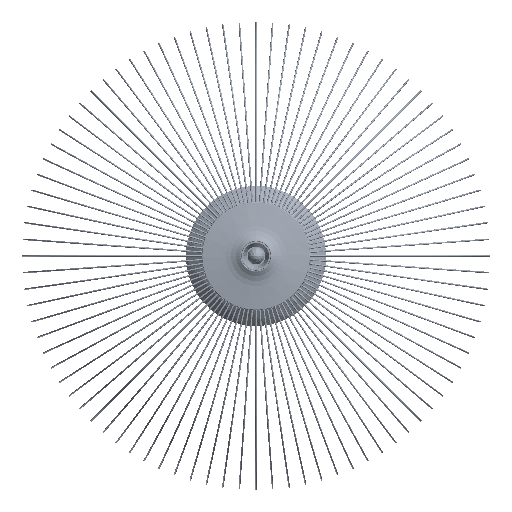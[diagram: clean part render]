
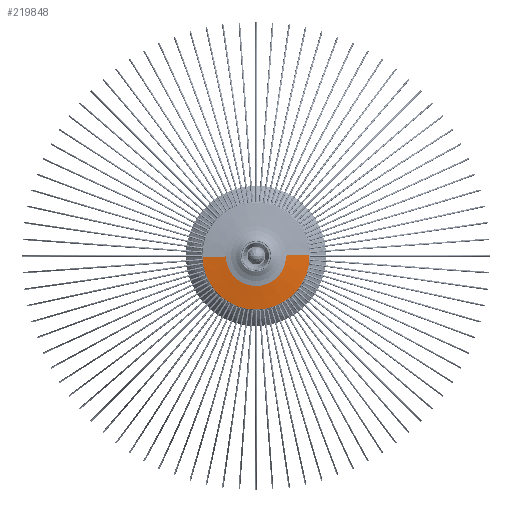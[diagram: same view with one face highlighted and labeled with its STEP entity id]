
A CAD part, front view. The second image highlights one B-rep face of the part: STEP entity #219848.
In plain terms, the highlighted conical face has half-angle 82 degrees and reference radius 80.878 mm.
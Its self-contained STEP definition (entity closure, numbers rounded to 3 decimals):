
#4856 = CARTESIAN_POINT ( 'NONE',  ( 0., -3.617, 0. ) ) ;
#9315 = DIRECTION ( 'NONE',  ( 0., 0., -1. ) ) ;
#10412 = CARTESIAN_POINT ( 'NONE',  ( 0., -8.548, -44.956 ) ) ;
#13501 = DIRECTION ( 'NONE',  ( 0., 0.139, -0.99 ) ) ;
#13874 = CARTESIAN_POINT ( 'NONE',  ( 0., -3.617, -80.047 ) ) ;
#14626 = LINE ( 'NONE', #167549, #214786 ) ;
#27436 = CARTESIAN_POINT ( 'NONE',  ( 0., -3.5, 80.878 ) ) ;
#33545 = CIRCLE ( 'NONE', #160123, 80.047 ) ;
#35351 = DIRECTION ( 'NONE',  ( 0., 0., 1. ) ) ;
#52359 = CARTESIAN_POINT ( 'NONE',  ( 0., -8.548, 0. ) ) ;
#71541 = DIRECTION ( 'NONE',  ( 0., 1., 0. ) ) ;
#73663 = VECTOR ( 'NONE', #78349, 1000. ) ;
#73905 = DIRECTION ( 'NONE',  ( 0., -1., 0. ) ) ;
#78349 = DIRECTION ( 'NONE',  ( 0., 0.139, 0.99 ) ) ;
#89586 = EDGE_CURVE ( 'NONE', #220952, #204652, #164452, .T. ) ;
#92075 = EDGE_CURVE ( 'NONE', #221724, #141591, #14626, .T. ) ;
#97241 = EDGE_CURVE ( 'NONE', #220952, #221724, #176206, .T. ) ;
#108246 = AXIS2_PLACEMENT_3D ( 'NONE', #114231, #181058, #112011 ) ;
#111146 = AXIS2_PLACEMENT_3D ( 'NONE', #52359, #71541, #35351 ) ;
#112011 = DIRECTION ( 'NONE',  ( 0., 0., 1. ) ) ;
#114231 = CARTESIAN_POINT ( 'NONE',  ( 0., -3.5, 0. ) ) ;
#126701 = ORIENTED_EDGE ( 'NONE', *, *, #97241, .T. ) ;
#134153 = CARTESIAN_POINT ( 'NONE',  ( 0., -3.617, 80.047 ) ) ;
#139822 = EDGE_CURVE ( 'NONE', #141591, #204652, #33545, .T. ) ;
#141591 = VERTEX_POINT ( 'NONE', #13874 ) ;
#146890 = ORIENTED_EDGE ( 'NONE', *, *, #89586, .F. ) ;
#151742 = CONICAL_SURFACE ( 'NONE', #108246, 80.878, 1.431 ) ;
#160123 = AXIS2_PLACEMENT_3D ( 'NONE', #4856, #73905, #9315 ) ;
#163825 = ORIENTED_EDGE ( 'NONE', *, *, #139822, .T. ) ;
#164452 = LINE ( 'NONE', #27436, #73663 ) ;
#167549 = CARTESIAN_POINT ( 'NONE',  ( 0., -3.5, -80.878 ) ) ;
#175472 = EDGE_LOOP ( 'NONE', ( #126701, #199728, #163825, #146890 ) ) ;
#176206 = CIRCLE ( 'NONE', #111146, 44.956 ) ;
#181058 = DIRECTION ( 'NONE',  ( 0., 1., 0. ) ) ;
#182165 = FACE_OUTER_BOUND ( 'NONE', #175472, .T. ) ;
#193308 = CARTESIAN_POINT ( 'NONE',  ( 0., -8.548, 44.956 ) ) ;
#199728 = ORIENTED_EDGE ( 'NONE', *, *, #92075, .T. ) ;
#204652 = VERTEX_POINT ( 'NONE', #134153 ) ;
#214786 = VECTOR ( 'NONE', #13501, 1000. ) ;
#219848 = ADVANCED_FACE ( 'NONE', ( #182165 ), #151742, .T. ) ;
#220952 = VERTEX_POINT ( 'NONE', #193308 ) ;
#221724 = VERTEX_POINT ( 'NONE', #10412 ) ;
